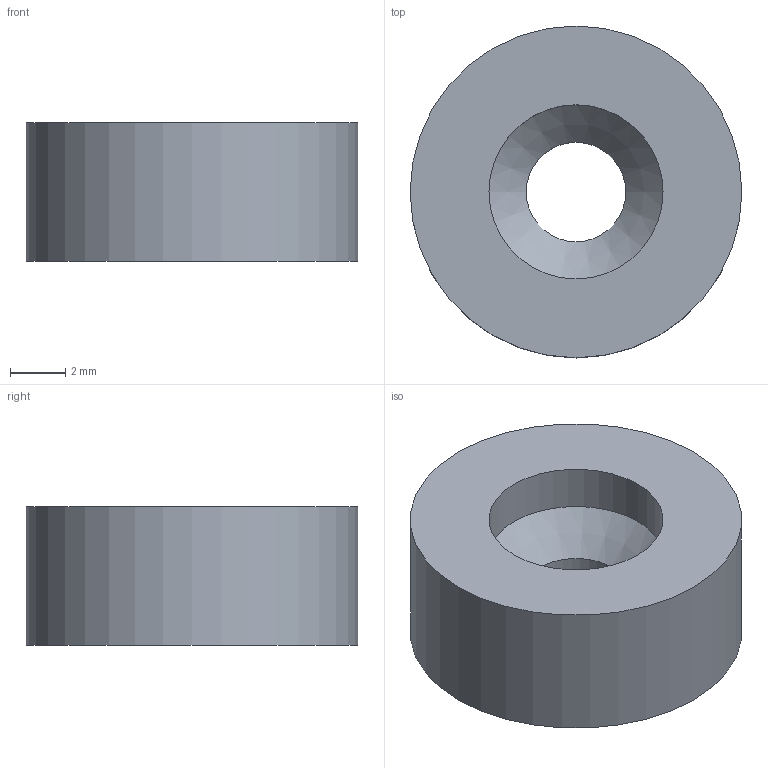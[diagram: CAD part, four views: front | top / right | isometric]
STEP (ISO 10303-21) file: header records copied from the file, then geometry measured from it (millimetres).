
FILE_DESCRIPTION(/* description */ (''),/* implementation_level */ '2;1');
FILE_NAME(/* name */ 'C:\Users\CAD2\Desktop\Nuova cartella\80.05.stp',/* time_stamp */ '2015-05-18T12:22:24+02:00',/* author */ ('CAD2'),/* organization */ (''),/* preprocessor_version */ 'ST-DEVELOPER v15.2',/* originating_system */ 'Autodesk Inventor 2014',/* authorisation */ '');
FILE_SCHEMA (('CONFIG_CONTROL_DESIGN'));
Length unit declared in the file: millimetre
Products named in the file (1): 80.05
Bounding box: 12 x 12 x 5 mm (x, y, z)
Volume: 467.1 mm3; surface area: 458.3 mm2
Topology: 1 solids, 1 shells, 6 faces, 10 edges, 6 vertices
Faces by surface type: cylinder 3, plane 2, cone 1
Full cylindrical faces by diameter (mm): 3.6 x1, 6.3 x1, 12 x1
Entity records: 152 total; most frequent: DIRECTION 26, CARTESIAN_POINT 19, AXIS2_PLACEMENT_3D 13, EDGE_LOOP 12, ORIENTED_EDGE 12, FACE_BOUND 8, CIRCLE 6, VERTEX_POINT 6
